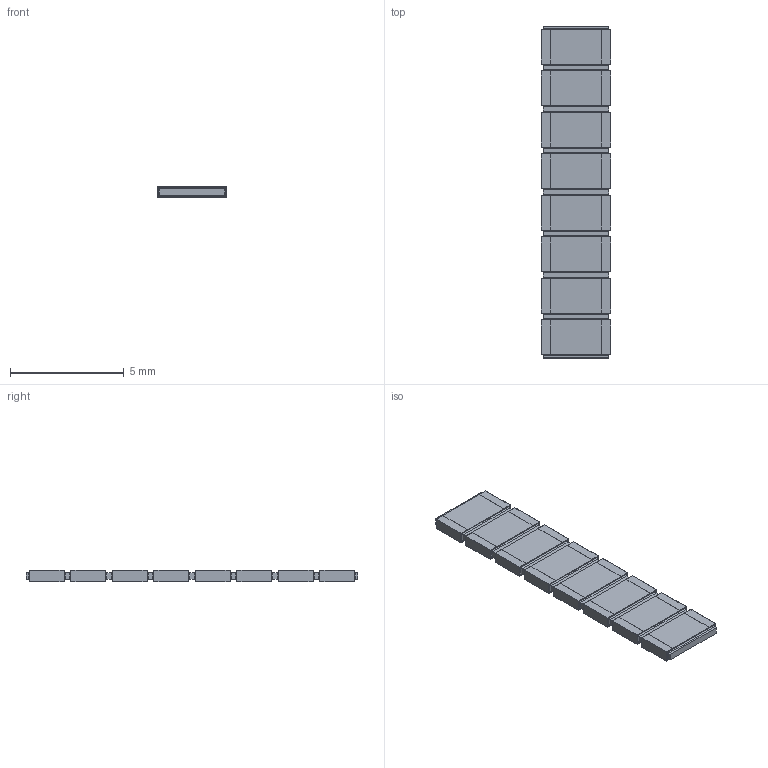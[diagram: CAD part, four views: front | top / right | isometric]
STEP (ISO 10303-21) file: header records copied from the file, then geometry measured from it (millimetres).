
FILE_DESCRIPTION(/* description */ (''),/* implementation_level */ '2;1');
FILE_NAME(/* name */ 'S:\DOCUMENT\AUTOCAD\3D_Modèles\10_3D-pour-VISHAY-COM\PRA\PRA182\PRA182-I2_à_I8\10_IGES\PRA182I8_B-or-N-or-G.stp',/* time_stamp */ '2017-12-18T15:19:57+01:00',/* author */ ('dparmentier'),/* organization */ ('unknown'),/* preprocessor_version */ 'ST-DEVELOPER v17',/* originating_system */ 'Autodesk Inventor 2018',/* authorisation */ '');
FILE_SCHEMA (('AUTOMOTIVE_DESIGN { 1 0 10303 214 3 1 1 }'));
Length unit declared in the file: millimetre
Products named in the file (1): PRA182I8_B-or-N-or-G
Bounding box: 3.06 x 14.6 x 0.5 mm (x, y, z)
Volume: 20.5 mm3; surface area: 174.7 mm2
Topology: 17 solids, 17 shells, 310 faces, 716 edges, 456 vertices
Faces by surface type: plane 246, cylinder 64
Entity records: 8609 total; most frequent: CARTESIAN_POINT 1483, ORIENTED_EDGE 1432, DIRECTION 1402, EDGE_CURVE 716, LINE 652, VECTOR 652, VERTEX_POINT 456, AXIS2_PLACEMENT_3D 375
